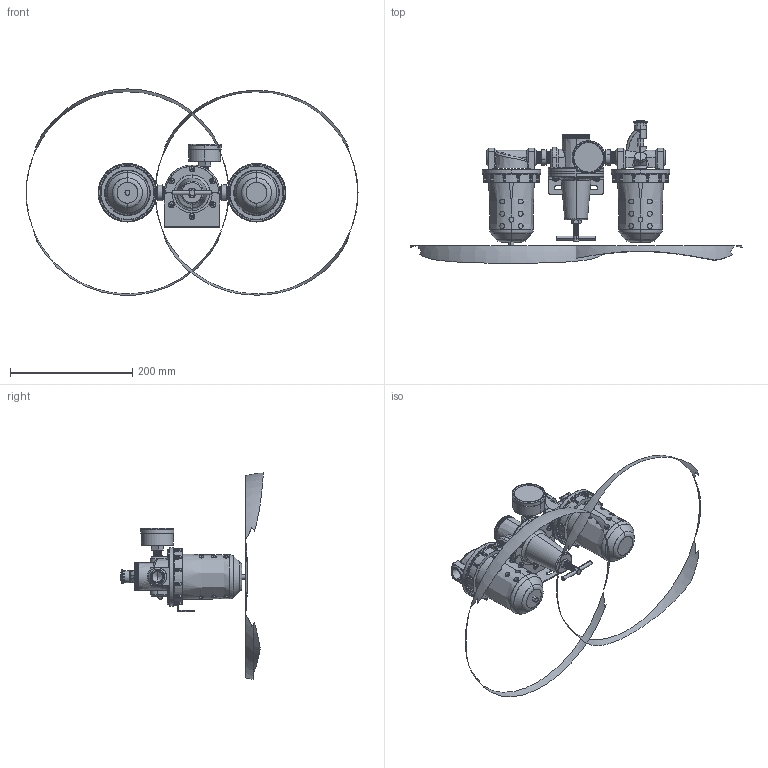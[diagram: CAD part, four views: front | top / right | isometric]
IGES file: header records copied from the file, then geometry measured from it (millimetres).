
Start section: SolidWorks IGES file using analytic representation for surfaces
Global section: file name: D:\Custom\3D繪製\FRL\FRL系列\C628-04#YB#.IGS; native system: SolidWorks 2014; preprocessor: SolidWorks 2014; author: Chieh_Lu; date: 160115.013328; units: millimetre
Bounding box: 542.09 x 233.04 x 336.63 mm (x, y, z)
Surface area: 252576.7 mm2 (no closed solid volume)
Topology: 0 solids, 0 shells, 1695 faces, 23875 edges, 23846 vertices
Faces by surface type: bspline 851, revolution 844
